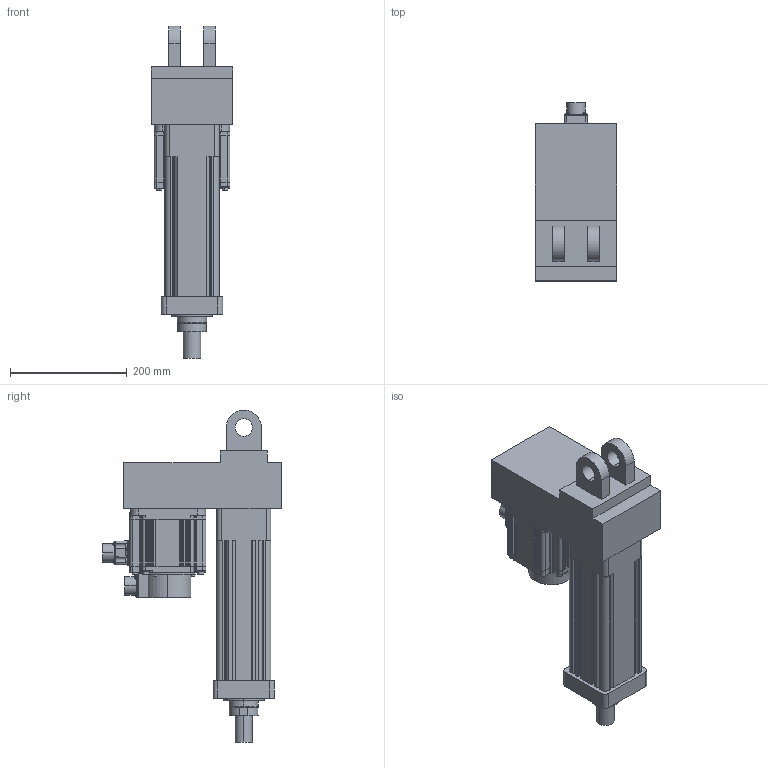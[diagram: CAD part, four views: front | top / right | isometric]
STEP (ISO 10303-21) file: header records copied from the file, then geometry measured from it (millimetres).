
FILE_DESCRIPTION (( 'STEP AP203' ), '1' );
FILE_NAME ('S4殏殿綴帣蝓假蚾.STEP', '2024-05-27T05:27:12', ( '' ), ( '' ), 'SwSTEP 2.0', 'SolidWorks 2018', '' );
FILE_SCHEMA (( 'CONFIG_CONTROL_DESIGN' ));
Length unit declared in the file: millimetre
Products named in the file (3): S4殏殿綴帣蝓假蚾; S4殏殿綴帣蝓; ECMA-FX1308ES-130框號系列機種-0.85KW高慣量系列
Assembly tree (2 placements, depth 2):
  S4殏殿綴帣蝓假蚾
    S4殏殿綴帣蝓
    ECMA-FX1308ES-130框號系列機種-0.85KW高慣量系列
Bounding box: 140 x 305.44 x 569 mm (x, y, z)
Volume: 6861181.5 mm3; surface area: 617971.3 mm2
Topology: 2 solids, 15 shells, 938 faces, 2246 edges, 1396 vertices
Faces by surface type: plane 416, cylinder 351, cone 103, torus 47, sphere 20, bspline 1
Entity records: 28080 total; most frequent: CARTESIAN_POINT 5441, DIRECTION 4930, ORIENTED_EDGE 4488, EDGE_CURVE 2244, AXIS2_PLACEMENT_3D 1824, VERTEX_POINT 1396, LINE 1282, VECTOR 1282
